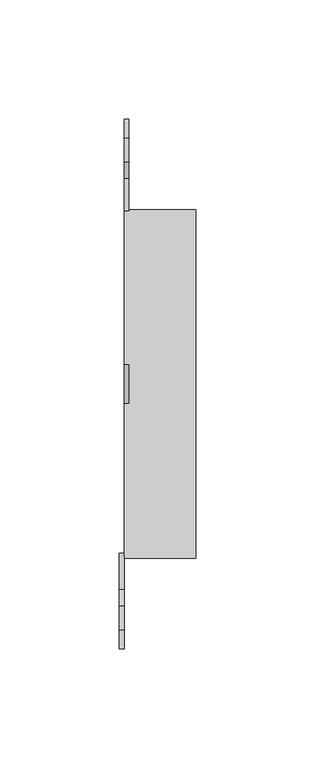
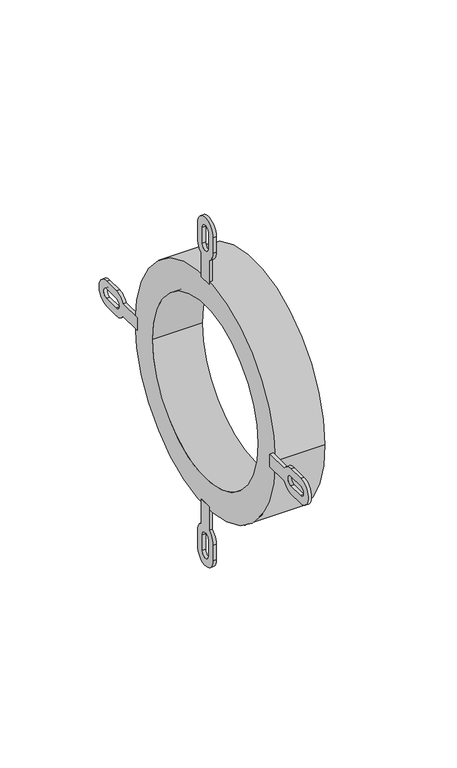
"""IFC4 building model written with IfcOpenShell, lengths in millimetres: valve geometry, MASTER 3 PLUS Seeling ring : MASTER 3 PLUS Seeling ring."""

from ifc_helpers import new_model, si_unit, point, frame, frame_2d, origin, origin_2d, place, context, project, spatial, polyline, circle_curve, trimmed, segment, composite_curve, outline, extrude, source, transform, mapped, element, save


def valve_ccb48bfc(model_context):
    return source(origin(), model_context, "Body", "SweptSolid", [
        extrude(outline(composite_curve([segment(polyline([(-3.9877984, 71.0), (-3.9877984, 86.0647665)]), True, "CONTINUOUS"), segment(trimmed(circle_curve(frame_2d((0.0, 93.0)), 8.0), [point((-3.9877984, 86.0647665))], [point((-8.0, 93.0))], False, "CARTESIAN"), True, "CONTINUOUS"), segment(polyline([(-8.0, 93.0), (-8.0, 103.0)]), True, "CONTINUOUS"), segment(trimmed(circle_curve(frame_2d((0.0, 103.0)), 8.0), [point((-8.0, 103.0))], [point((8.0, 103.0))], False, "CARTESIAN"), True, "CONTINUOUS"), segment(polyline([(8.0, 103.0), (8.0, 93.0)]), True, "CONTINUOUS"), segment(trimmed(circle_curve(frame_2d((0.0, 93.0)), 8.0), [point((8.0, 93.0))], [point((3.9877984, 86.0647665))], False, "CARTESIAN"), True, "CONTINUOUS"), segment(polyline([(3.9877984, 86.0647665), (3.9877984, 71.0), (-3.9877984, 71.0)]), True, "CONTINUOUS")], self_intersect=False), holes=[composite_curve([segment(trimmed(circle_curve(frame_2d((0.0, 93.0)), 3.0), [point((-3.0, 93.0))], [point((3.0, 93.0))], True, "CARTESIAN"), True, "CONTINUOUS"), segment(polyline([(3.0, 93.0), (3.0, 103.0)]), True, "CONTINUOUS"), segment(trimmed(circle_curve(frame_2d((0.0, 103.0)), 3.0), [point((3.0, 103.0))], [point((-3.0, 103.0))], True, "CARTESIAN"), True, "CONTINUOUS"), segment(polyline([(-3.0, 103.0), (-3.0, 93.0)]), True, "CONTINUOUS")], self_intersect=False)]), frame((0.0, 0.0, 0.0), z_axis=(1.0, 0.0, 0.0), x_axis=(0.0, 1.0, 0.0)), (0.0, 0.0, 1.0), 2.0),
        extrude(outline(composite_curve([segment(polyline([(-3.9877984, -71.0), (3.9877984, -71.0), (3.9877984, -86.0647665)]), True, "CONTINUOUS"), segment(trimmed(circle_curve(frame_2d((0.0, -93.0)), 8.0), [point((3.9877984, -86.0647665))], [point((8.0, -93.0))], False, "CARTESIAN"), True, "CONTINUOUS"), segment(polyline([(8.0, -93.0), (8.0, -103.0)]), True, "CONTINUOUS"), segment(trimmed(circle_curve(frame_2d((0.0, -103.0)), 8.0), [point((8.0, -103.0))], [point((-8.0, -103.0))], False, "CARTESIAN"), True, "CONTINUOUS"), segment(polyline([(-8.0, -103.0), (-8.0, -93.0)]), True, "CONTINUOUS"), segment(trimmed(circle_curve(frame_2d((0.0, -93.0)), 8.0), [point((-8.0, -93.0))], [point((-3.9877984, -86.0647665))], False, "CARTESIAN"), True, "CONTINUOUS"), segment(polyline([(-3.9877984, -86.0647665), (-3.9877984, -71.0)]), True, "CONTINUOUS")], self_intersect=False), holes=[composite_curve([segment(polyline([(-3.0, -93.0), (-3.0, -103.0)]), True, "CONTINUOUS"), segment(trimmed(circle_curve(frame_2d((0.0, -103.0)), 3.0), [point((-3.0, -103.0))], [point((3.0, -103.0))], True, "CARTESIAN"), True, "CONTINUOUS"), segment(polyline([(3.0, -103.0), (3.0, -93.0)]), True, "CONTINUOUS"), segment(trimmed(circle_curve(frame_2d((0.0, -93.0)), 3.0), [point((3.0, -93.0))], [point((-3.0, -93.0))], True, "CARTESIAN"), True, "CONTINUOUS")], self_intersect=False)]), frame((0.0, 0.0, 0.0), z_axis=(1.0, 0.0, 0.0), x_axis=(0.0, 1.0, 0.0)), (0.0, 0.0, 1.0), 2.0),
        extrude(outline(composite_curve([segment(polyline([(-71.0, -3.9877984), (-86.0647665, -3.9877984)]), True, "CONTINUOUS"), segment(trimmed(circle_curve(frame_2d((-93.0, 0.0)), 8.0), [point((-86.0647665, -3.9877984))], [point((-93.0, -8.0))], False, "CARTESIAN"), True, "CONTINUOUS"), segment(polyline([(-93.0, -8.0), (-103.0, -8.0)]), True, "CONTINUOUS"), segment(trimmed(circle_curve(frame_2d((-103.0, 0.0)), 8.0), [point((-103.0, -8.0))], [point((-103.0, 8.0))], False, "CARTESIAN"), True, "CONTINUOUS"), segment(polyline([(-103.0, 8.0), (-93.0, 8.0)]), True, "CONTINUOUS"), segment(trimmed(circle_curve(frame_2d((-93.0, 0.0)), 8.0), [point((-93.0, 8.0))], [point((-86.0647665, 3.9877984))], False, "CARTESIAN"), True, "CONTINUOUS"), segment(polyline([(-86.0647665, 3.9877984), (-71.0, 3.9877984), (-71.0, -3.9877984)]), True, "CONTINUOUS")], self_intersect=False), holes=[composite_curve([segment(trimmed(circle_curve(frame_2d((-93.0, 0.0)), 3.0), [point((-93.0, -3.0))], [point((-93.0, 3.0))], True, "CARTESIAN"), True, "CONTINUOUS"), segment(polyline([(-93.0, 3.0), (-103.0, 3.0)]), True, "CONTINUOUS"), segment(trimmed(circle_curve(frame_2d((-103.0, 0.0)), 3.0), [point((-103.0, 3.0))], [point((-103.0, -3.0))], True, "CARTESIAN"), True, "CONTINUOUS"), segment(polyline([(-103.0, -3.0), (-93.0, -3.0)]), True, "CONTINUOUS")], self_intersect=False)]), frame((-2.0, 0.0, 0.0), z_axis=(1.0, 0.0, 0.0), x_axis=(0.0, 1.0, 0.0)), (0.0, 0.0, 1.0), 2.0),
        extrude(outline(composite_curve([segment(polyline([(71.0, -3.9877984), (71.0, 3.9877984), (86.0647665, 3.9877984)]), True, "CONTINUOUS"), segment(trimmed(circle_curve(frame_2d((93.0, 0.0)), 8.0), [point((86.0647665, 3.9877984))], [point((93.0, 8.0))], False, "CARTESIAN"), True, "CONTINUOUS"), segment(polyline([(93.0, 8.0), (103.0, 8.0)]), True, "CONTINUOUS"), segment(trimmed(circle_curve(frame_2d((103.0, 0.0)), 8.0), [point((103.0, 8.0))], [point((103.0, -8.0))], False, "CARTESIAN"), True, "CONTINUOUS"), segment(polyline([(103.0, -8.0), (93.0, -8.0)]), True, "CONTINUOUS"), segment(trimmed(circle_curve(frame_2d((93.0, 0.0)), 8.0), [point((93.0, -8.0))], [point((86.0647665, -3.9877984))], False, "CARTESIAN"), True, "CONTINUOUS"), segment(polyline([(86.0647665, -3.9877984), (71.0, -3.9877984)]), True, "CONTINUOUS")], self_intersect=False), holes=[composite_curve([segment(polyline([(93.0, -3.0), (103.0, -3.0)]), True, "CONTINUOUS"), segment(trimmed(circle_curve(frame_2d((103.0, 0.0)), 3.0), [point((103.0, -3.0))], [point((103.0, 3.0))], True, "CARTESIAN"), True, "CONTINUOUS"), segment(polyline([(103.0, 3.0), (93.0, 3.0)]), True, "CONTINUOUS"), segment(trimmed(circle_curve(frame_2d((93.0, 0.0)), 3.0), [point((93.0, 3.0))], [point((93.0, -3.0))], True, "CARTESIAN"), True, "CONTINUOUS")], self_intersect=False)]), frame((0.0, 0.0, 0.0), z_axis=(1.0, 0.0, 0.0), x_axis=(0.0, 1.0, 0.0)), (0.0, 0.0, 1.0), 2.0),
        extrude(outline(composite_curve([segment(trimmed(circle_curve(origin_2d(), 73.0), [point((-73.0, 0.0))], [point((73.0, 0.0))], False, "CARTESIAN"), True, "CONTINUOUS"), segment(trimmed(circle_curve(origin_2d(), 73.0), [point((73.0, 0.0))], [point((-73.0, 0.0))], False, "CARTESIAN"), True, "CONTINUOUS")], self_intersect=False), holes=[composite_curve([segment(trimmed(circle_curve(origin_2d(), 55.0), [point((-55.0, 0.0))], [point((55.0, 0.0))], True, "CARTESIAN"), True, "CONTINUOUS"), segment(trimmed(circle_curve(origin_2d(), 55.0), [point((55.0, 0.0))], [point((-55.0, 0.0))], True, "CARTESIAN"), True, "CONTINUOUS")], self_intersect=False)]), frame((0.0, 0.0, 0.0), z_axis=(1.0, 0.0, 0.0), x_axis=(0.0, 1.0, 0.0)), (0.0, 0.0, 1.0), 30.0),
    ])


if __name__ == "__main__":
    model = new_model("IFC4")
    model_context = context("Model", 3, world=origin())
    ifc_project = project(units=[si_unit("LENGTHUNIT", "METRE", prefix="MILLI")], contexts=[model_context])
    site = spatial("IfcSite", under=ifc_project)
    building = spatial("IfcBuilding", under=site)
    placement = place(None, origin())
    valve_shape = valve_ccb48bfc(model_context)
    element("IfcValve", 1, ObjectType="MASTER 3 PLUS Seeling ring : MASTER 3 PLUS Seeling ring", at=placement, inside=building, context=model_context, shape_type="MappedRepresentation", body=[
        mapped(valve_shape, transform((0.0, 0.0, 0.0), x_axis=(1.0, 0.0, 0.0), y_axis=(0.0, 1.0, 0.0), z_axis=(0.0, 0.0, 1.0))),
    ])
    save(model, "model.ifc")
